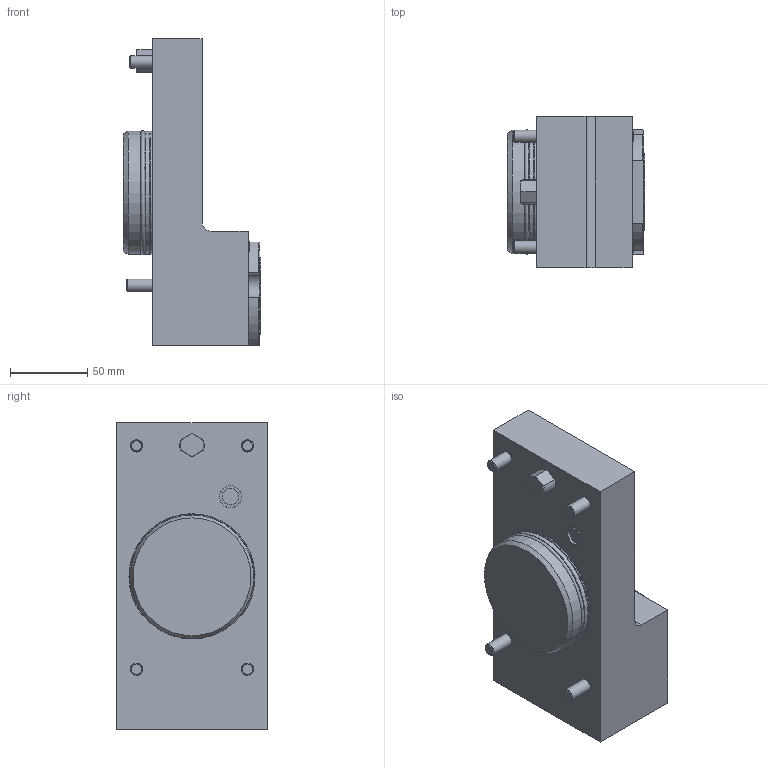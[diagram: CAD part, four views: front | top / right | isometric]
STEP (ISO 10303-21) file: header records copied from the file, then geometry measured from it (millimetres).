
FILE_DESCRIPTION(/* description */ (''),/* implementation_level */ '2;1');
FILE_NAME(/* name */ '198189',/* time_stamp */ '2021-11-19T10:34:38+01:00',/* author */ (''),/* organization */ (''),/* preprocessor_version */ 'ST-DEVELOPER v16.5',/* originating_system */ 'HiCAD 2017 2201.0 Build 268',/* authorisation */ '');
FILE_SCHEMA (('AUTOMOTIVE_DESIGN { 1 0 10303 214 1 1 1 1 }'));
Length unit declared in the file: millimetre
Products named in the file (45): Root; Leeres Teil; 114127_O-Ring 72x2.5_260*; 173498_Kantsealring 10.82x1.68_250*; SCHWERTBOLZEN 16-6_110*; ROTATIONSTEIL_0_240*; DIN 13-M12x1; KUGEL_0; DIN 13-M6; TORUS_0; 197885_Handspanner Berg C5_350*; 18513_Zugfeder_0.32x1.80x21; 765.16108.001.0; 999.86000.311.0_ET.03; 777.18513.002.1.01.01.01; 18513_SB_32; 786.18581.106.1_Dummy; 763.18513.001.1; 185461_Kerbstift DIN1474 3x12_405*; QUADER_0_160*; Normteilgruppe _0; ISO 4762-M8x65-8.8_Zylinderkopfschrauben; GEWINDE; DIN 912      (Innensechskant)_Zylinderschraube 8x45_220*; ROTATIONSTEIL_0_200*; ROTATIONSTEIL_0_100*; DIN 76-M12x1
Assembly tree (44 placements, depth 6):
  Root
    Leeres Teil
      114127_O-Ring 72x2.5_260*
      173498_Kantsealring 10.82x1.68_250*
      SCHWERTBOLZEN 16-6_110*
      ROTATIONSTEIL_0_240*
        DIN 13-M12x1
        KUGEL_0
          DIN 13-M6
        TORUS_0
      ROTATIONSTEIL_0_240*
        DIN 13-M12x1
        KUGEL_0
          DIN 13-M6
        TORUS_0
      Leeres Teil
        197885_Handspanner Berg C5_350*
          18513_Zugfeder_0.32x1.80x21
          765.16108.001.0
            999.86000.311.0_ET.03
            999.86000.311.0_ET.03
            999.86000.311.0_ET.03
            999.86000.311.0_ET.03
            999.86000.311.0_ET.03
            999.86000.311.0_ET.03
          777.18513.002.1.01.01.01
          18513_SB_32
          777.18513.002.1.01.01.01
          786.18581.106.1_Dummy
          763.18513.001.1
        185461_Kerbstift DIN1474 3x12_405*
        QUADER_0_160*
      Normteilgruppe _0
        ISO 4762-M8x65-8.8_Zylinderkopfschrauben
          GEWINDE
      Normteilgruppe _0
        ISO 4762-M8x65-8.8_Zylinderkopfschrauben
          GEWINDE
      DIN 912      (Innensechskant)_Zylinderschraube 8x45_220*
        GEWINDE
      DIN 912      (Innensechskant)_Zylinderschraube 8x45_220*
        GEWINDE
      ROTATIONSTEIL_0_200*
      ROTATIONSTEIL_0_100*
        DIN 76-M12x1
Bounding box: 89 x 98 x 199 mm (x, y, z)
Volume: 947202.1 mm3; surface area: 117825.1 mm2
Topology: 39 solids, 39 shells, 470 faces, 1145 edges, 742 vertices
Faces by surface type: plane 243, cylinder 86, cone 81, torus 52, sphere 6, bspline 2
Full cylindrical faces by diameter (mm): 3 x1, 4.2 x1, 5 x2, 6 x4, 6.8 x8, 7.1 x1, 8 x4, 9.92 x2, 10.82 x1, 11 x8, 12 x6, 12.9 x1, 13 x6, 14.18 x1, 14.27 x1, 15 x2, 16 x2, 17.9 x1, 18.2 x1, 19.7 x1, 20.7 x1, 39.2 x1, 50 x2, 50.03 x1, 75.8 x1, 79.6 x1, 80 x2
Entity records: 26542 total; most frequent: CARTESIAN_POINT 5372, DIRECTION 2604, PRESENTATION_STYLE_ASSIGNMENT 1958, ORIENTED_EDGE 1932, COLOUR_RGB 1929, DRAUGHTING_PRE_DEFINED_CURVE_FONT 1924, CURVE_STYLE 1924, OVER_RIDING_STYLED_ITEM 1924
